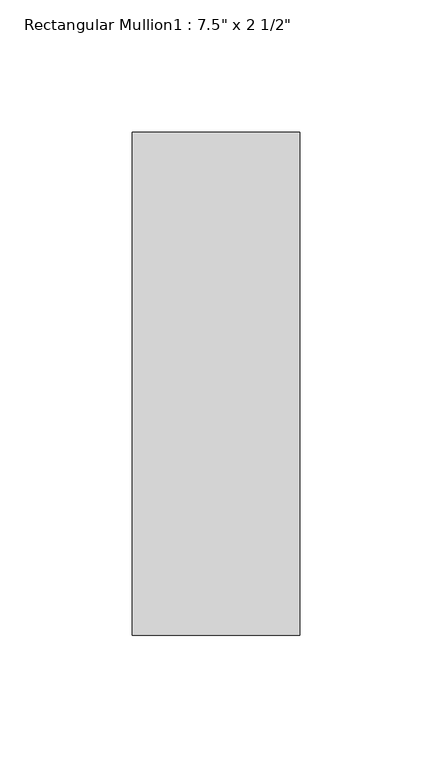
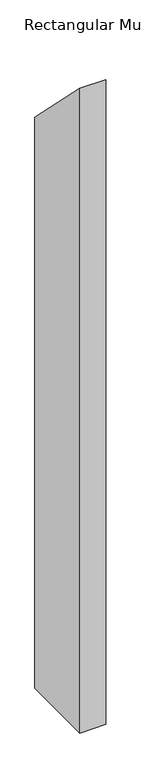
"""IFC4 building model written with IfcOpenShell, lengths in millimetres: member geometry."""

from ifc_helpers import new_model, si_unit, frame, origin, place, context, project, spatial, polyline, outline, extrude, source, transform, mapped, element, save


def member_4bb62d5a(model_context):
    return source(origin(), model_context, "Body", "SweptSolid", [
        extrude(outline(polyline([(-25.4, 25.4), (165.1, -165.1), (165.1, -1639.1033425), (-25.4, -1639.1033425), (-25.4, 25.4)])), frame((-31.75, 0.0, 0.0), z_axis=(1.0, 0.0, 0.0), x_axis=(0.0, 1.0, 0.0)), (0.0, 0.0, 1.0), 63.5),
    ])


if __name__ == "__main__":
    model = new_model("IFC4")
    model_context = context("Model", 3, world=origin())
    ifc_project = project(units=[si_unit("LENGTHUNIT", "METRE", prefix="MILLI")], contexts=[model_context])
    site = spatial("IfcSite", under=ifc_project)
    building = spatial("IfcBuilding", under=site)
    placement = place(None, origin())
    member_shape = member_4bb62d5a(model_context)
    element("IfcMember", 1, ObjectType="Rectangular Mullion1 : 7.5\" x 2 1/2\"", at=placement, inside=building, context=model_context, shape_type="MappedRepresentation", body=[
        mapped(member_shape, transform((0.0, 0.0, 0.0), x_axis=(1.0, 0.0, 0.0), y_axis=(0.0, 1.0, 0.0), z_axis=(0.0, 0.0, 1.0))),
    ])
    save(model, "model.ifc")
